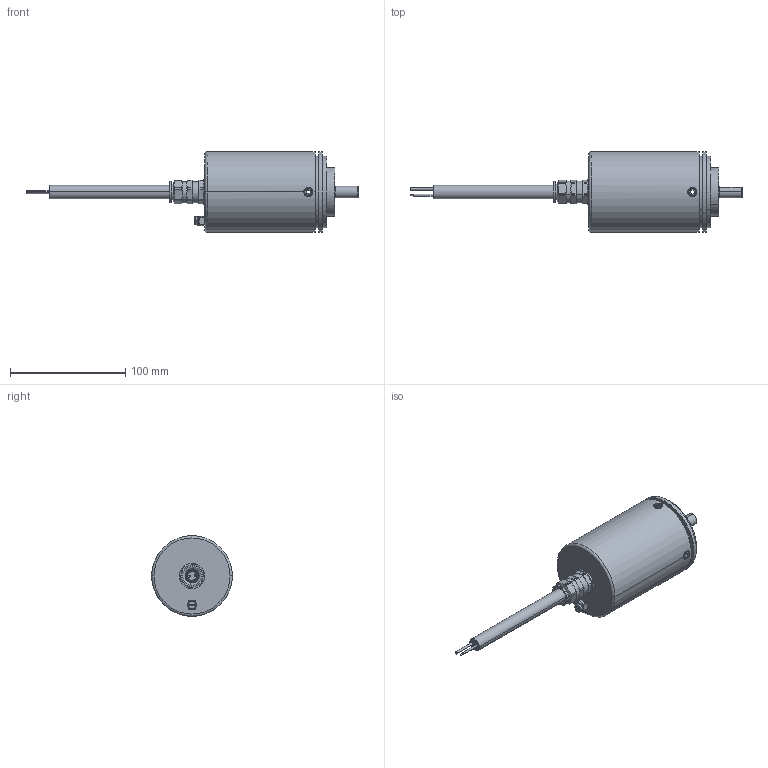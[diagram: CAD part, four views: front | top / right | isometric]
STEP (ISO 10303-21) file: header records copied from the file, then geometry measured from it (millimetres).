
FILE_DESCRIPTION (( 'STEP AP214' ), '1' );
FILE_NAME ('8.7063.1221.XXXX.STEP', '2011-01-27T11:52:46', ( 'admin' ), ( 'Fritz Kübler GmbH' ), 'SwSTEP 2.0', 'SolidWorks 2009', '' );
FILE_SCHEMA (( 'AUTOMOTIVE_DESIGN' ));
Length unit declared in the file: millimetre
Products named in the file (1): 8.7063.1221.XXXX
Bounding box: 287.7 x 70 x 70 mm (x, y, z)
Surface area: 46095 mm2 (no closed solid volume)
Topology: 0 solids, 23 shells, 285 faces, 738 edges, 483 vertices
Faces by surface type: cylinder 125, plane 110, cone 33, torus 17
Entity records: 12148 total; most frequent: CARTESIAN_POINT 1993, DIRECTION 1556, ORIENTED_EDGE 1302, EDGE_CURVE 738, AXIS2_PLACEMENT_3D 598, VERTEX_POINT 483, LINE 360, VECTOR 360
